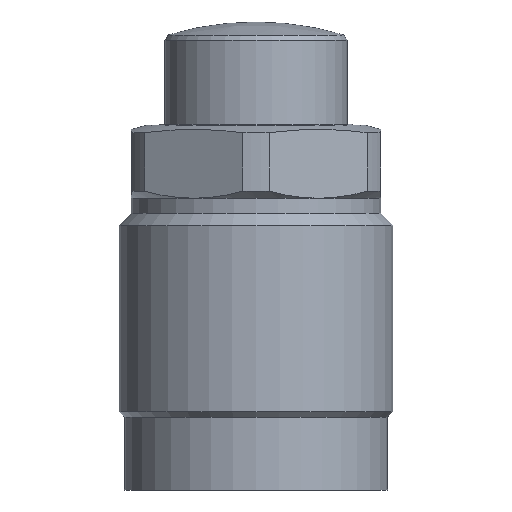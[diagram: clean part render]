
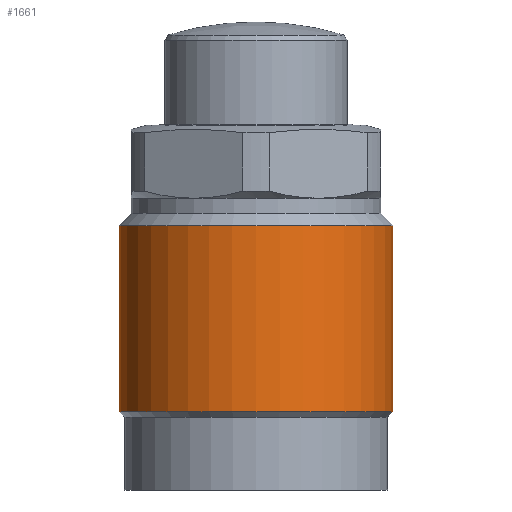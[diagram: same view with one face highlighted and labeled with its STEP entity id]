
A CAD part, front view. The second image highlights one B-rep face of the part: STEP entity #1661.
In plain terms, the highlighted cylindrical face has radius 22.5 mm (diameter 45 mm), a partial arc.
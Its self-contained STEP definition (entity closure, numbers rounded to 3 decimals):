
#553 = CARTESIAN_POINT ( 'NONE',  ( 0., 0., -47.15 ) ) ;
#554 = DIRECTION ( 'NONE',  ( 0., 0., 1. ) ) ;
#555 = DIRECTION ( 'NONE',  ( 1., 0., 0. ) ) ;
#556 = CARTESIAN_POINT ( 'NONE',  ( 0., 0., -16.5 ) ) ;
#557 = DIRECTION ( 'NONE',  ( 0., 0., 1. ) ) ;
#558 = DIRECTION ( 'NONE',  ( 1., 0., 0. ) ) ;
#683 = DIRECTION ( 'NONE',  ( 0., 0., 1. ) ) ;
#685 = FACE_OUTER_BOUND ( 'NONE', #1043, .T. ) ;
#686 = CARTESIAN_POINT ( 'NONE',  ( 0., 0., 5.219 ) ) ;
#688 = CYLINDRICAL_SURFACE ( 'NONE', #818, 22.5 ) ;
#689 = DIRECTION ( 'NONE',  ( 1., 0., 0. ) ) ;
#796 = CIRCLE ( 'NONE', #799, 22.5 ) ;
#798 = CIRCLE ( 'NONE', #801, 22.5 ) ;
#799 = AXIS2_PLACEMENT_3D ( 'NONE', #553, #554, #555 ) ;
#801 = AXIS2_PLACEMENT_3D ( 'NONE', #556, #557, #558 ) ;
#818 = AXIS2_PLACEMENT_3D ( 'NONE', #686, #683, #689 ) ;
#1043 = EDGE_LOOP ( 'NONE', ( #1418, #1423, #1419, #1445 ) ) ;
#1119 = VERTEX_POINT ( 'NONE', #1307 ) ;
#1121 = VERTEX_POINT ( 'NONE', #1309 ) ;
#1124 = VERTEX_POINT ( 'NONE', #1312 ) ;
#1126 = VERTEX_POINT ( 'NONE', #1314 ) ;
#1307 = CARTESIAN_POINT ( 'NONE',  ( 22.5, 0., -16.5 ) ) ;
#1309 = CARTESIAN_POINT ( 'NONE',  ( -22.5, 0., -47.15 ) ) ;
#1312 = CARTESIAN_POINT ( 'NONE',  ( 22.5, 0., -47.15 ) ) ;
#1314 = CARTESIAN_POINT ( 'NONE',  ( -22.5, 0., -16.5 ) ) ;
#1418 = ORIENTED_EDGE ( 'NONE', *, *, #1609, .F. ) ;
#1419 = ORIENTED_EDGE ( 'NONE', *, *, #1610, .T. ) ;
#1423 = ORIENTED_EDGE ( 'NONE', *, *, #1635, .T. ) ;
#1445 = ORIENTED_EDGE ( 'NONE', *, *, #1636, .F. ) ;
#1608 = VECTOR ( 'NONE', #2043, 1000. ) ;
#1609 = EDGE_CURVE ( 'NONE', #1121, #1126, #2037, .T. ) ;
#1610 = EDGE_CURVE ( 'NONE', #1124, #1119, #2038, .T. ) ;
#1635 = EDGE_CURVE ( 'NONE', #1121, #1124, #796, .T. ) ;
#1636 = EDGE_CURVE ( 'NONE', #1126, #1119, #798, .T. ) ;
#1661 = ADVANCED_FACE ( 'NONE', ( #685 ), #688, .T. ) ;
#1824 = VECTOR ( 'NONE', #2040, 1000. ) ;
#2037 = LINE ( 'NONE', #2039, #1824 ) ;
#2038 = LINE ( 'NONE', #2041, #1608 ) ;
#2039 = CARTESIAN_POINT ( 'NONE',  ( -22.5, 0., 5.219 ) ) ;
#2040 = DIRECTION ( 'NONE',  ( 0., 0., 1. ) ) ;
#2041 = CARTESIAN_POINT ( 'NONE',  ( 22.5, 0., 5.219 ) ) ;
#2043 = DIRECTION ( 'NONE',  ( 0., 0., 1. ) ) ;
